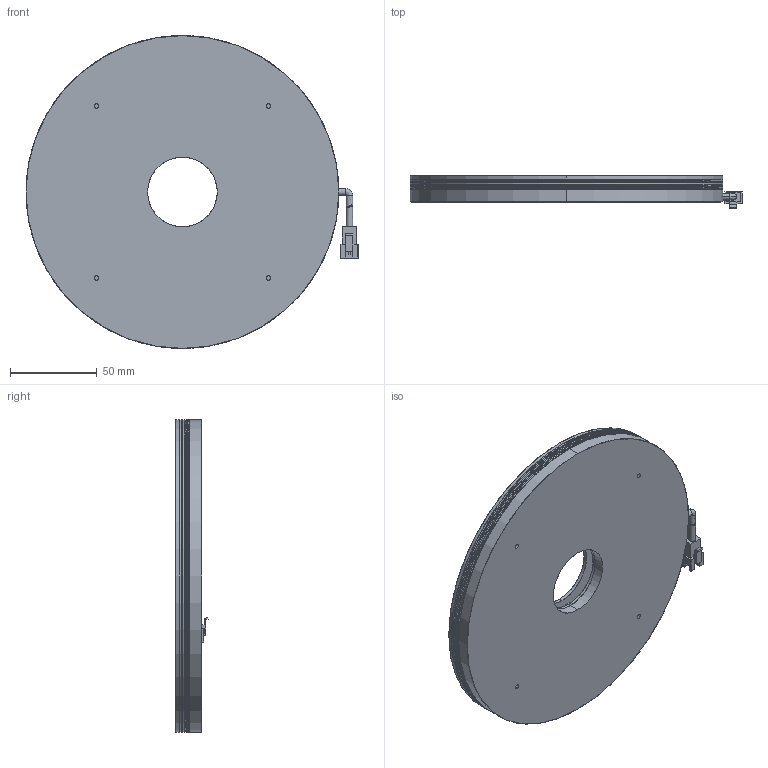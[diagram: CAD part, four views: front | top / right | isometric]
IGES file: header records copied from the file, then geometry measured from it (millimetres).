
Start section: SolidWorks IGES file using analytic representation for surfaces
Global section: file name: \\yushimv\workstation\新款图纸\标准产品\环光\环光00\R18000-40\ED\R18000-40.IGS; native system: SolidWorks 2021; preprocessor: SolidWorks 2021; author: yushimv; date: 210716.184538; units: millimetre
Bounding box: 191 x 18.65 x 180 mm (x, y, z)
Surface area: 159116.1 mm2 (no closed solid volume)
Topology: 0 solids, 0 shells, 749 faces, 7404 edges, 7300 vertices
Faces by surface type: bspline 395, revolution 354
